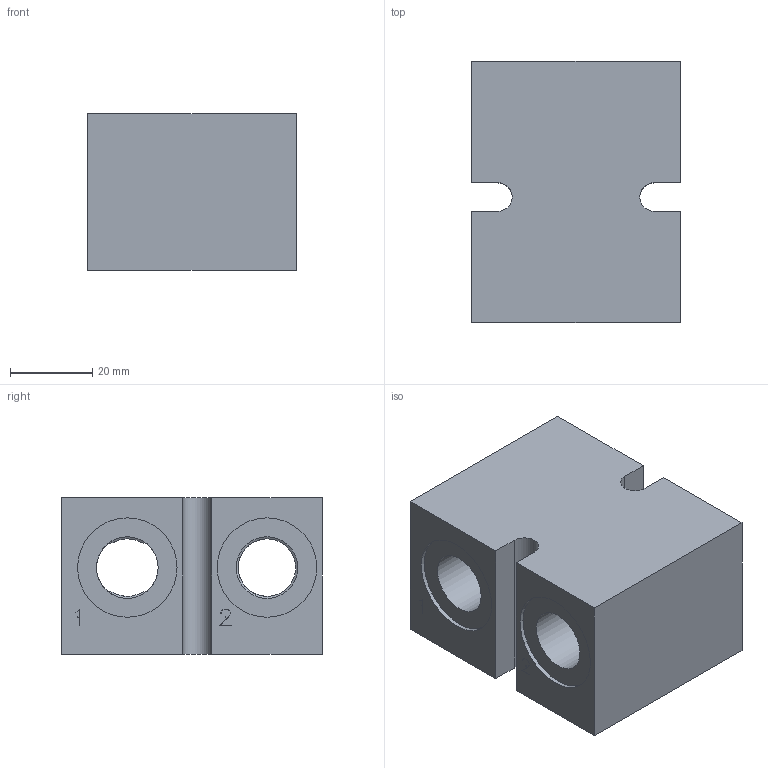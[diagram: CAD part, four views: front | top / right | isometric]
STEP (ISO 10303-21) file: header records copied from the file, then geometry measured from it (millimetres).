
FILE_DESCRIPTION( ( 'Unknown' ), '1' );
FILE_NAME( 'G:/Graphic Design/Graphic Design 2/Data Sheets/Delta Bodies/DRAWINGS/B-DDEB4.stp', 'Unknown', ( 'Unknown' ), ( 'Unknown' ), 'PSStep 16.0.42', 'Unknown', ' ' );
FILE_SCHEMA( ( 'AUTOMOTIVE_DESIGN { 1 0 10303 214 1 1 1 1 }' ) );
Length unit declared in the file: millimetre
Products named in the file (2): Assem1; B-DDEB4
Assembly tree (1 placements, depth 2):
  Assem1
    B-DDEB4
Bounding box: 50.8 x 63.5 x 38.1 mm (x, y, z)
Surface area: 21310.2 mm2 (no closed solid volume)
Topology: 0 solids, 143 shells, 143 faces, 722 edges, 689 vertices
Faces by surface type: plane 99, cylinder 31, cone 13
Full cylindrical faces by diameter (mm): 0.2 x4, 14 x2, 15 x8, 15.9 x1, 17.043 x1, 20.262 x2, 24.2 x4, 30.175 x1
Entity records: 7958 total; most frequent: CARTESIAN_POINT 2185, DIRECTION 746, ORIENTED_EDGE 674, EDGE_CURVE 674, VERTEX_POINT 674, B_SPLINE_CURVE_WITH_KNOTS 340, AXIS2_PLACEMENT_3D 267, LINE 212
